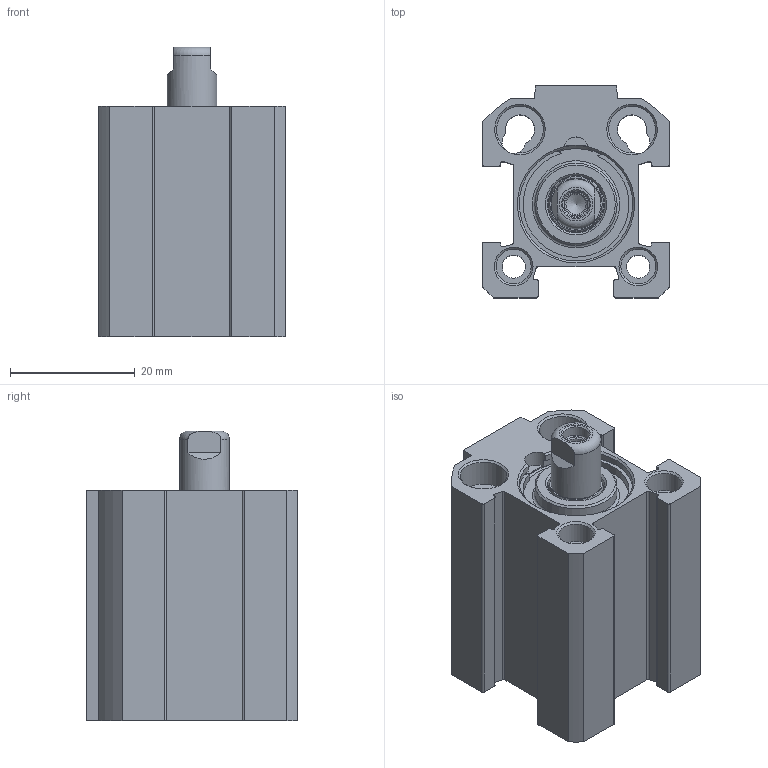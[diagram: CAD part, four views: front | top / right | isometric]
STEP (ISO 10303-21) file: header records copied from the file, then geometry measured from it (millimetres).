
FILE_DESCRIPTION(/* description */ ('Unknown'),/* implementation_level */ '2;1');
FILE_NAME(/* name */ 'FENV 16_5',/* time_stamp */ '2026-05-11T14:51:36+02:00',/* author */ ('Unknown'),/* organization */ ('Unknown'),/* preprocessor_version */ 'ST-DEVELOPER v18.102',/* originating_system */ 'Solid Edge',/* authorisation */ 'Unknown');
FILE_SCHEMA (('AUTOMOTIVE_DESIGN {1 0 10303 214 3 1 1}'));
Length unit declared in the file: millimetre
Products named in the file (5): FENV 16_5; Kolbenstange; Profilrohr; Kit_1; Kit_2
Assembly tree (4 placements, depth 2):
  FENV 16_5
    Kolbenstange
    Profilrohr
    Kit_1
    Kit_2
Bounding box: 30 x 34 x 46.5 mm (x, y, z)
Volume: 23852.8 mm3; surface area: 15280.7 mm2
Topology: 6 solids, 6 shells, 191 faces, 467 edges, 304 vertices
Faces by surface type: plane 78, cylinder 74, cone 30, torus 9
Full cylindrical faces by diameter (mm): 1.3 x2, 3.242 x2, 3.7 x2, 4.134 x4, 4.25 x1, 5.6 x4, 8 x1, 8.42 x1, 9.2 x1, 11.36 x1, 11.5 x1, 13.2 x1, 14 x1, 16 x2, 17.9 x4, 19 x2
Entity records: 6512 total; most frequent: CARTESIAN_POINT 1055, DIRECTION 956, ORIENTED_EDGE 776, AXIS2_PLACEMENT_3D 395, EDGE_CURVE 388, VERTEX_POINT 287, FACE_BOUND 285, EDGE_LOOP 284
